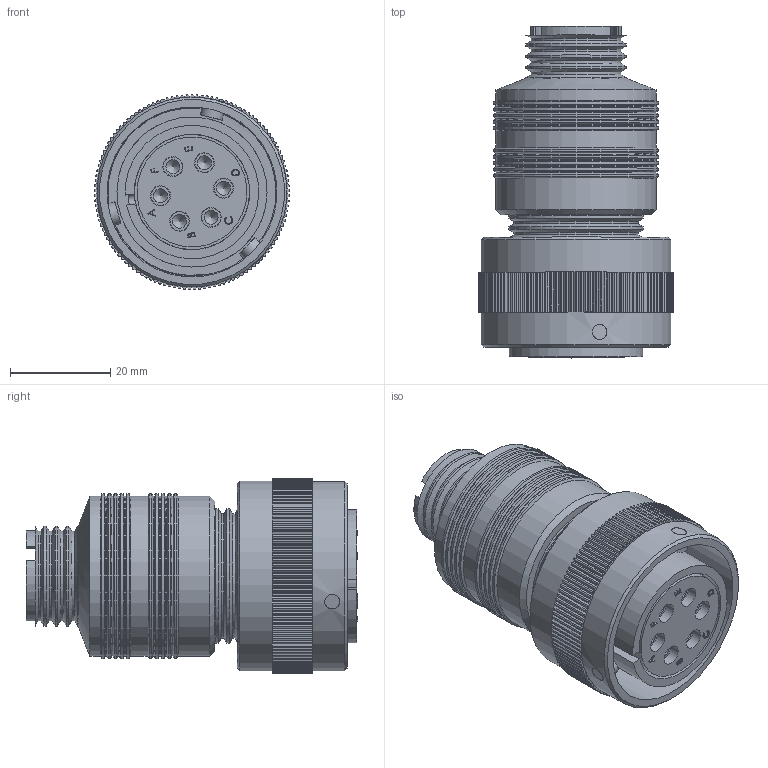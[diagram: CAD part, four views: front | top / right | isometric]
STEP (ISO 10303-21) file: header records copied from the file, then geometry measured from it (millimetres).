
FILE_DESCRIPTION (( 'STEP AP214' ), '1' );
FILE_NAME ('PLT3106A 20-15SA.STEP', '2025-12-17T07:26:47', ( '' ), ( '' ), 'SwSTEP 2.0', 'SolidWorks 2021', '' );
FILE_SCHEMA (( 'AUTOMOTIVE_DESIGN' ));
Length unit declared in the file: millimetre
Products named in the file (1): PLT3106A 20-15SA
Bounding box: 39 x 66.36 x 38.99 mm (x, y, z)
Volume: 34551.5 mm3; surface area: 33704 mm2
Topology: 18 solids, 18 shells, 846 faces, 2165 edges, 1406 vertices
Faces by surface type: plane 464, cylinder 255, cone 72, bspline 54, torus 1
Full cylindrical faces by diameter (mm): 2.8 x6, 2.95 x6, 3 x18, 3.8 x12, 4 x12, 4.5 x3, 13 x1, 17 x1, 17.84 x4, 20 x4, 22 x2, 22.1 x1, 23 x3, 23.1 x2, 24.835 x3, 24.84 x6, 25.6 x2, 26.835 x2, 26.995 x4, 27 x6, 28.6 x1, 29 x1, 30 x2, 32 x11, 33 x10, 33.6 x1, 34 x1, 38 x2
Entity records: 37724 total; most frequent: CARTESIAN_POINT 8648, DIRECTION 3901, ORIENTED_EDGE 3858, EDGE_CURVE 1929, VERTEX_POINT 1370, AXIS2_PLACEMENT_3D 1311, LINE 1279, VECTOR 1279
